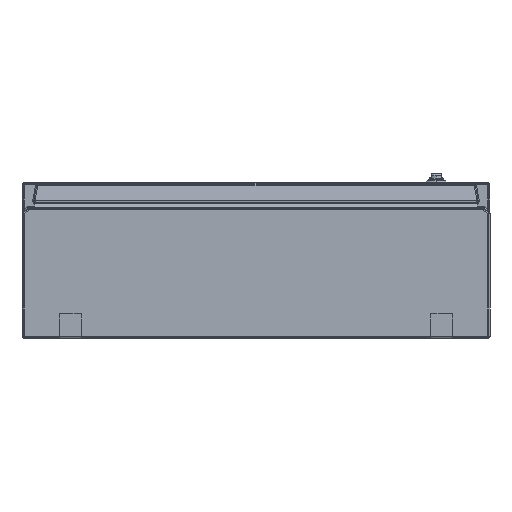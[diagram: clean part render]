
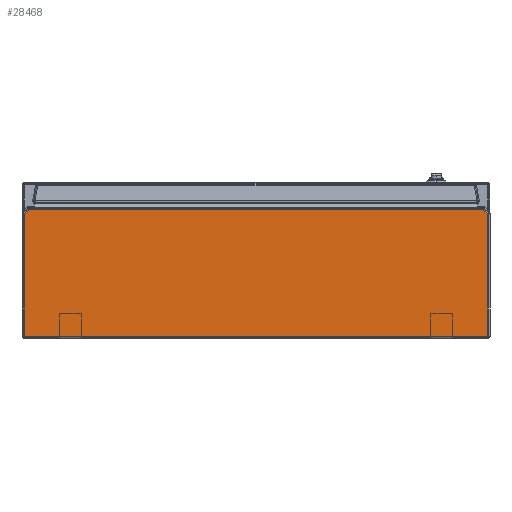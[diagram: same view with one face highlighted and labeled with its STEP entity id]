
A CAD part, front view. The second image highlights one B-rep face of the part: STEP entity #28468.
In plain terms, the highlighted planar face has unit normal (0, -1, 0).
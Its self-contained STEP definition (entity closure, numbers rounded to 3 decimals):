
#378 = DIRECTION ( 'NONE',  ( 1., 0., 0. ) ) ;
#458 = ORIENTED_EDGE ( 'NONE', *, *, #7266, .T. ) ;
#541 = LINE ( 'NONE', #10524, #789 ) ;
#789 = VECTOR ( 'NONE', #20496, 1000. ) ;
#2124 = CARTESIAN_POINT ( 'NONE',  ( -297., -297.5, -200. ) ) ;
#2749 = VERTEX_POINT ( 'NONE', #5394 ) ;
#2826 = PLANE ( 'NONE',  #17918 ) ;
#4620 = DIRECTION ( 'NONE',  ( -1., 0., 0. ) ) ;
#5394 = CARTESIAN_POINT ( 'NONE',  ( -297., -297.5, -197. ) ) ;
#5536 = ORIENTED_EDGE ( 'NONE', *, *, #17842, .T. ) ;
#5940 = ORIENTED_EDGE ( 'NONE', *, *, #24115, .T. ) ;
#7266 = EDGE_CURVE ( 'NONE', #15061, #18446, #23124, .T. ) ;
#8250 = CARTESIAN_POINT ( 'NONE',  ( 297., -297.5, -200. ) ) ;
#8351 = LINE ( 'NONE', #18325, #21700 ) ;
#8825 = VERTEX_POINT ( 'NONE', #22005 ) ;
#10524 = CARTESIAN_POINT ( 'NONE',  ( 300., -297.5, -197. ) ) ;
#11607 = CARTESIAN_POINT ( 'NONE',  ( -290.485, -297.5, -35. ) ) ;
#11868 = LINE ( 'NONE', #21838, #16724 ) ;
#12108 = DIRECTION ( 'NONE',  ( 0., 0., -1. ) ) ;
#12719 = ORIENTED_EDGE ( 'NONE', *, *, #28014, .T. ) ;
#12819 = CARTESIAN_POINT ( 'NONE',  ( 300., -297.5, -200. ) ) ;
#13259 = ORIENTED_EDGE ( 'NONE', *, *, #17480, .T. ) ;
#14108 = VECTOR ( 'NONE', #4620, 1000. ) ;
#14835 = CARTESIAN_POINT ( 'NONE',  ( 290.485, -297.5, -35. ) ) ;
#15061 = VERTEX_POINT ( 'NONE', #20143 ) ;
#16724 = VECTOR ( 'NONE', #31782, 1000. ) ;
#17050 = LINE ( 'NONE', #27011, #14108 ) ;
#17480 = EDGE_CURVE ( 'NONE', #30956, #28930, #17050, .T. ) ;
#17842 = EDGE_CURVE ( 'NONE', #8825, #2749, #24524, .T. ) ;
#17918 = AXIS2_PLACEMENT_3D ( 'NONE', #12819, #22783, #378 ) ;
#18210 = DIRECTION ( 'NONE',  ( 0., 0., 1. ) ) ;
#18325 = CARTESIAN_POINT ( 'NONE',  ( -297., -297.5, -39.562 ) ) ;
#18446 = VERTEX_POINT ( 'NONE', #30645 ) ;
#18826 = VECTOR ( 'NONE', #12108, 1000. ) ;
#20045 = EDGE_LOOP ( 'NONE', ( #458, #12719, #13259, #28357, #5536, #5940 ) ) ;
#20143 = CARTESIAN_POINT ( 'NONE',  ( 297., -297.5, -197. ) ) ;
#20496 = DIRECTION ( 'NONE',  ( 1., 0., 0. ) ) ;
#20767 = VECTOR ( 'NONE', #18210, 1000. ) ;
#21700 = VECTOR ( 'NONE', #28291, 1000. ) ;
#21838 = CARTESIAN_POINT ( 'NONE',  ( 293.995, -297.5, -37.457 ) ) ;
#22005 = CARTESIAN_POINT ( 'NONE',  ( -297., -297.5, -39.562 ) ) ;
#22783 = DIRECTION ( 'NONE',  ( 0., -1., 0. ) ) ;
#23124 = LINE ( 'NONE', #8250, #20767 ) ;
#24115 = EDGE_CURVE ( 'NONE', #2749, #15061, #541, .T. ) ;
#24524 = LINE ( 'NONE', #2124, #18826 ) ;
#24667 = EDGE_CURVE ( 'NONE', #28930, #8825, #8351, .T. ) ;
#25226 = FACE_OUTER_BOUND ( 'NONE', #20045, .T. ) ;
#27011 = CARTESIAN_POINT ( 'NONE',  ( 300., -297.5, -35. ) ) ;
#28014 = EDGE_CURVE ( 'NONE', #18446, #30956, #11868, .T. ) ;
#28291 = DIRECTION ( 'NONE',  ( -0.819, 0., -0.574 ) ) ;
#28357 = ORIENTED_EDGE ( 'NONE', *, *, #24667, .T. ) ;
#28468 = ADVANCED_FACE ( 'NONE', ( #25226 ), #2826, .T. ) ;
#28930 = VERTEX_POINT ( 'NONE', #11607 ) ;
#30645 = CARTESIAN_POINT ( 'NONE',  ( 297., -297.5, -39.562 ) ) ;
#30956 = VERTEX_POINT ( 'NONE', #14835 ) ;
#31782 = DIRECTION ( 'NONE',  ( -0.819, 0., 0.574 ) ) ;
